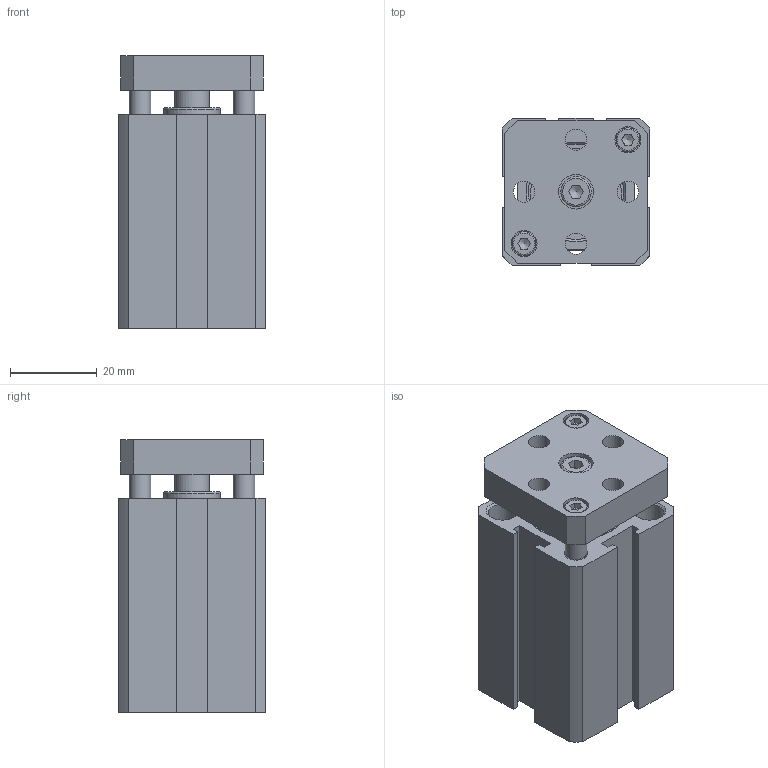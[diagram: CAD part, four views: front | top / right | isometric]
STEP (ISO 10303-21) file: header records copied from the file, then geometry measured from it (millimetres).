
FILE_DESCRIPTION((''),'2;1');
FILE_NAME('I:\3D電子目錄\氣缸\JTD\JTD\JTD20\JTD20x30.stp','2007-08-09T19:38:00',('Administrator'),(''),'Autodesk Inventor 11','Autodesk Inventor 11','');
FILE_SCHEMA(('AUTOMOTIVE_DESIGN { 1 0 10303 214 1 1 1 1 }'));
Length unit declared in the file: millimetre
Products named in the file (5): JTD20; R 形環 23; ISO 4762 M4 x 10; ISO 4762 M3 x 8
Assembly tree (6 placements, depth 2):
  JTD20
    JTD20
    R 形環 23  x2
    ISO 4762 M4 x 10
    ISO 4762 M3 x 8  x2
Bounding box: 34 x 34 x 63 mm (x, y, z)
Volume: 53196.5 mm3; surface area: 20943.4 mm2
Topology: 6 solids, 6 shells, 185 faces, 420 edges, 275 vertices
Faces by surface type: plane 99, cylinder 51, bspline 16, cone 14, torus 5
Full cylindrical faces by diameter (mm): 1.5 x6, 3 x2, 4 x1, 4.3 x2, 4.576 x2, 5 x2, 5.5 x4, 6.5 x4, 7 x1, 8 x1, 13 x2, 22 x4, 23.2 x2
Entity records: 4480 total; most frequent: CARTESIAN_POINT 974, DIRECTION 708, ORIENTED_EDGE 592, EDGE_CURVE 296, AXIS2_PLACEMENT_3D 270, EDGE_LOOP 262, VERTEX_POINT 228, VECTOR 168
